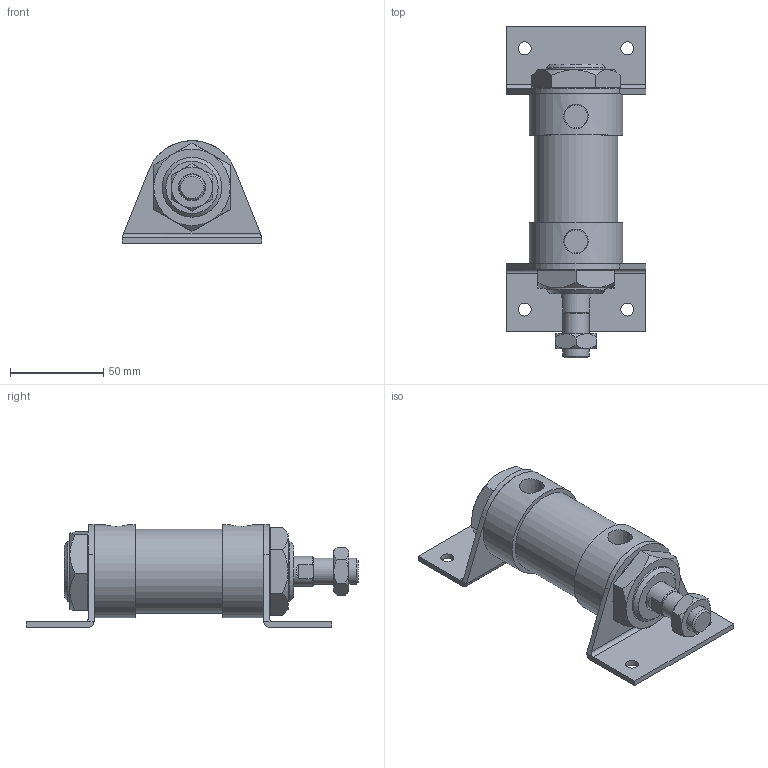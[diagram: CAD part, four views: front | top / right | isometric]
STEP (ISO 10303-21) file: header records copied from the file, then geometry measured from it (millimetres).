
FILE_DESCRIPTION(/* description */ ('Unknown'),/* implementation_level */ '2;1');
FILE_NAME(/* name */ 'WK40-LB',/* time_stamp */ '2026-07-17T16:34:19+08:00',/* author */ ('Unknown'),/* organization */ ('Unknown'),/* preprocessor_version */ 'ST-DEVELOPER v16.7',/* originating_system */ 'DEX',/* authorisation */ $);
FILE_SCHEMA (('CONFIG_CONTROL_DESIGN'));
Length unit declared in the file: millimetre
Products named in the file (8): WK40-LB; WK40_玡嶈搵; WK40_鋁; WK40_､ﾟｶbｬ｡; WK40_後; M14-1.5P-8_螺; WK40_WK50_LB; M32-2.0P-10_螺
Assembly tree (9 placements, depth 2):
  WK40-LB
    WK40_玡嶈搵
    WK40_鋁
    WK40_､ﾟｶbｬ｡
    WK40_後
    M14-1.5P-8_螺
    WK40_WK50_LB  x2
    M32-2.0P-10_螺  x2
Bounding box: 75 x 178 x 55 mm (x, y, z)
Volume: 236886.5 mm3; surface area: 75830.4 mm2
Topology: 9 solids, 9 shells, 134 faces, 293 edges, 184 vertices
Faces by surface type: plane 75, cone 30, cylinder 29
Full cylindrical faces by diameter (mm): 7 x4, 12.5 x1, 14 x1, 16 x2, 30 x2, 32 x4, 39.5 x1, 40 x1, 41 x2, 42 x2, 45 x1, 50 x2
Entity records: 3143 total; most frequent: CARTESIAN_POINT 561, DIRECTION 410, ORIENTED_EDGE 314, AXIS2_PLACEMENT_3D 178, EDGE_CURVE 157, EDGE_LOOP 148, FACE_BOUND 148, VERTEX_POINT 115
